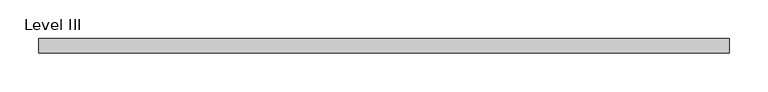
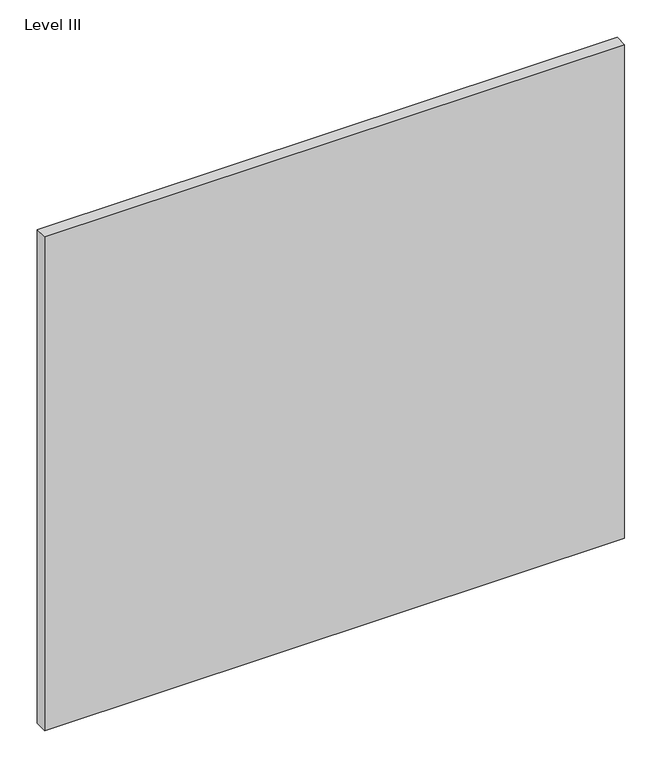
"""IFC4 building model written with IfcOpenShell, lengths in millimetres: proxy geometry, Panel-Fascia-Teknion-Altos-Standard : Level III."""

from ifc_helpers import new_model, si_unit, frame, origin, place, context, project, spatial, polyline, outline, extrude, source, transform, mapped, element, save


def level_iii_d208549f(model_context):
    return source(origin(), model_context, "Body", "SweptSolid", [
        extrude(outline(polyline([(447.0300781, -9.525), (-447.0300781, -9.525), (-447.0300781, 9.525), (447.0300781, 9.525), (447.0300781, -9.525)])), frame((0.0, 0.0, 3.175), z_axis=(0.0, 0.0, 1.0), x_axis=(1.0, 0.0, 0.0)), (0.0, 0.0, 1.0), 804.418),
    ])


if __name__ == "__main__":
    model = new_model("IFC4")
    model_context = context("Model", 3, world=origin())
    ifc_project = project(units=[si_unit("LENGTHUNIT", "METRE", prefix="MILLI")], contexts=[model_context])
    site = spatial("IfcSite", under=ifc_project)
    building = spatial("IfcBuilding", under=site)
    placement = place(None, origin())
    level_iii_shape = level_iii_d208549f(model_context)
    element("IfcBuildingElementProxy", 1, Name="Panel-Fascia-Teknion-Altos-Standard : Level III", ObjectType="Panel-Fascia-Teknion-Altos-Standard : Level III", at=placement, inside=building, context=model_context, shape_type="MappedRepresentation", body=[
        mapped(level_iii_shape, transform((0.0, 0.0, 0.0), x_axis=(1.0, 0.0, 0.0), y_axis=(0.0, 1.0, 0.0), z_axis=(0.0, 0.0, 1.0))),
    ])
    save(model, "model.ifc")
